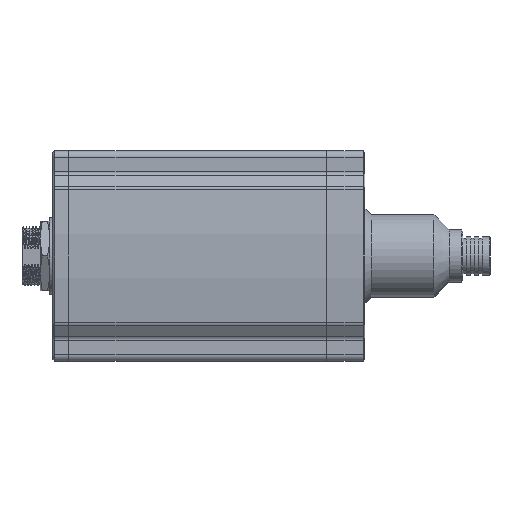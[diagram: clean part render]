
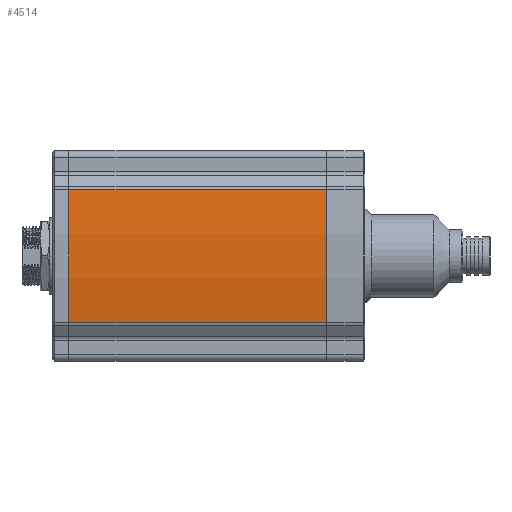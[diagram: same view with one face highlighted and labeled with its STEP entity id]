
A CAD part, front view. The second image highlights one B-rep face of the part: STEP entity #4514.
In plain terms, the highlighted cylindrical face has radius 153.05 mm (diameter 306.1 mm), a partial arc.
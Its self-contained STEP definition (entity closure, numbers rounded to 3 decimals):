
#971=FACE_OUTER_BOUND('',#6616,.T.);
#2263=LINE('',#52850,#3352);
#2264=LINE('',#52855,#3353);
#3352=VECTOR('',#21418,1.);
#3353=VECTOR('',#21421,1.);
#4514=ADVANCED_FACE('',(#971),#5115,.T.);
#5115=CYLINDRICAL_SURFACE('',#17808,153.05);
#6616=EDGE_LOOP('',(#9689,#9690,#9691,#9692));
#9689=ORIENTED_EDGE('',*,*,#14475,.T.);
#9690=ORIENTED_EDGE('',*,*,#14476,.F.);
#9691=ORIENTED_EDGE('',*,*,#14477,.F.);
#9692=ORIENTED_EDGE('',*,*,#14478,.T.);
#12546=VERTEX_POINT('',#52851);
#12547=VERTEX_POINT('',#52852);
#12548=VERTEX_POINT('',#52854);
#12549=VERTEX_POINT('',#52856);
#14475=EDGE_CURVE('',#12546,#12547,#2263,.T.);
#14476=EDGE_CURVE('',#12548,#12547,#15900,.T.);
#14477=EDGE_CURVE('',#12549,#12548,#2264,.T.);
#14478=EDGE_CURVE('',#12549,#12546,#15901,.T.);
#15900=CIRCLE('',#17806,153.05);
#15901=CIRCLE('',#17807,153.05);
#17806=AXIS2_PLACEMENT_3D('',#52853,#21419,#21420);
#17807=AXIS2_PLACEMENT_3D('',#52857,#21422,#21423);
#17808=AXIS2_PLACEMENT_3D('',#52858,#21424,#21425);
#21418=DIRECTION('',(1.,0.,0.));
#21419=DIRECTION('',(1.,0.,0.));
#21420=DIRECTION('',(0.,-0.991,0.137));
#21421=DIRECTION('',(1.,0.,0.));
#21422=DIRECTION('',(1.,0.,0.));
#21423=DIRECTION('',(0.,0.,1.));
#21424=DIRECTION('',(1.,0.,0.));
#21425=DIRECTION('',(0.,0.,-1.));
#52850=CARTESIAN_POINT('',(-48.,-22.55,-21.021));
#52851=CARTESIAN_POINT('',(-33.,-22.55,-21.021));
#52852=CARTESIAN_POINT('',(48.,-22.55,-21.021));
#52853=CARTESIAN_POINT('',(48.,129.05,0.));
#52854=CARTESIAN_POINT('',(48.,-22.55,21.021));
#52855=CARTESIAN_POINT('',(-48.,-22.55,21.021));
#52856=CARTESIAN_POINT('',(-33.,-22.55,21.021));
#52857=CARTESIAN_POINT('',(-33.,129.05,0.));
#52858=CARTESIAN_POINT('',(-48.,129.05,0.));
